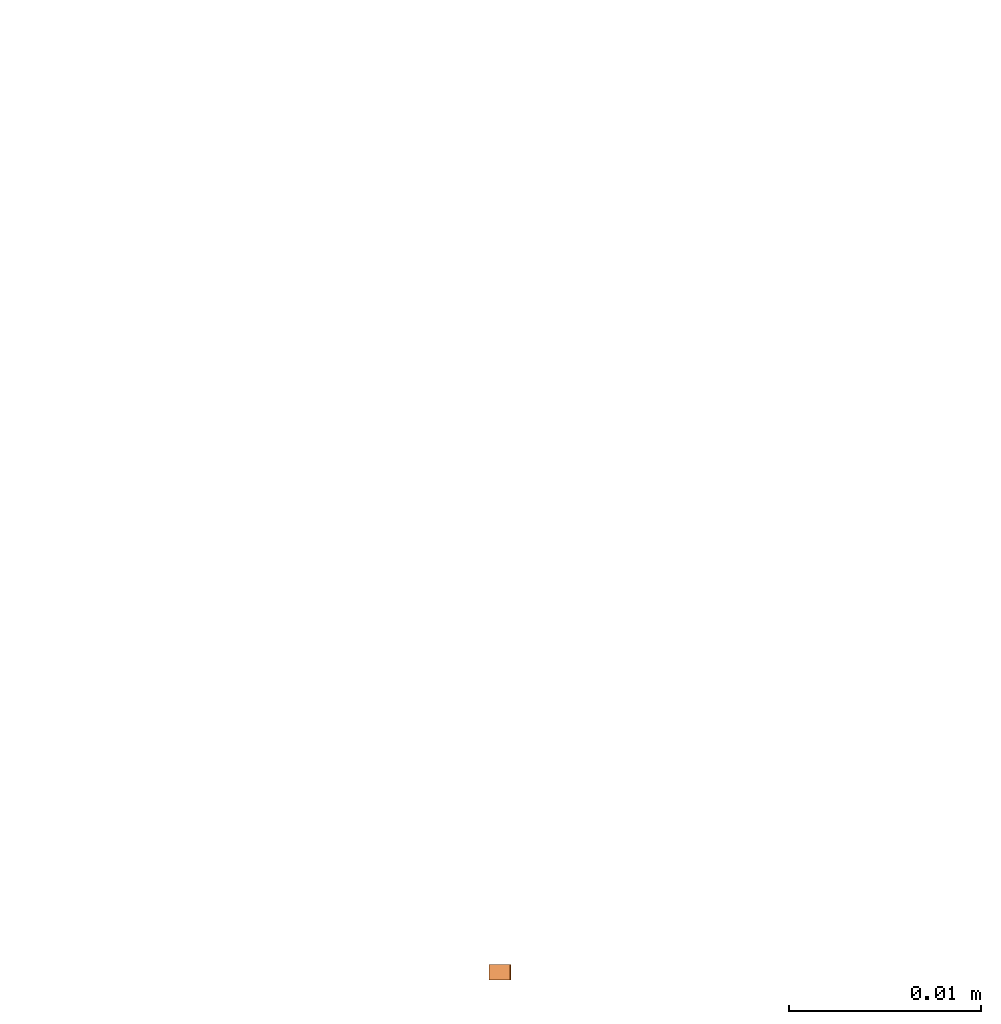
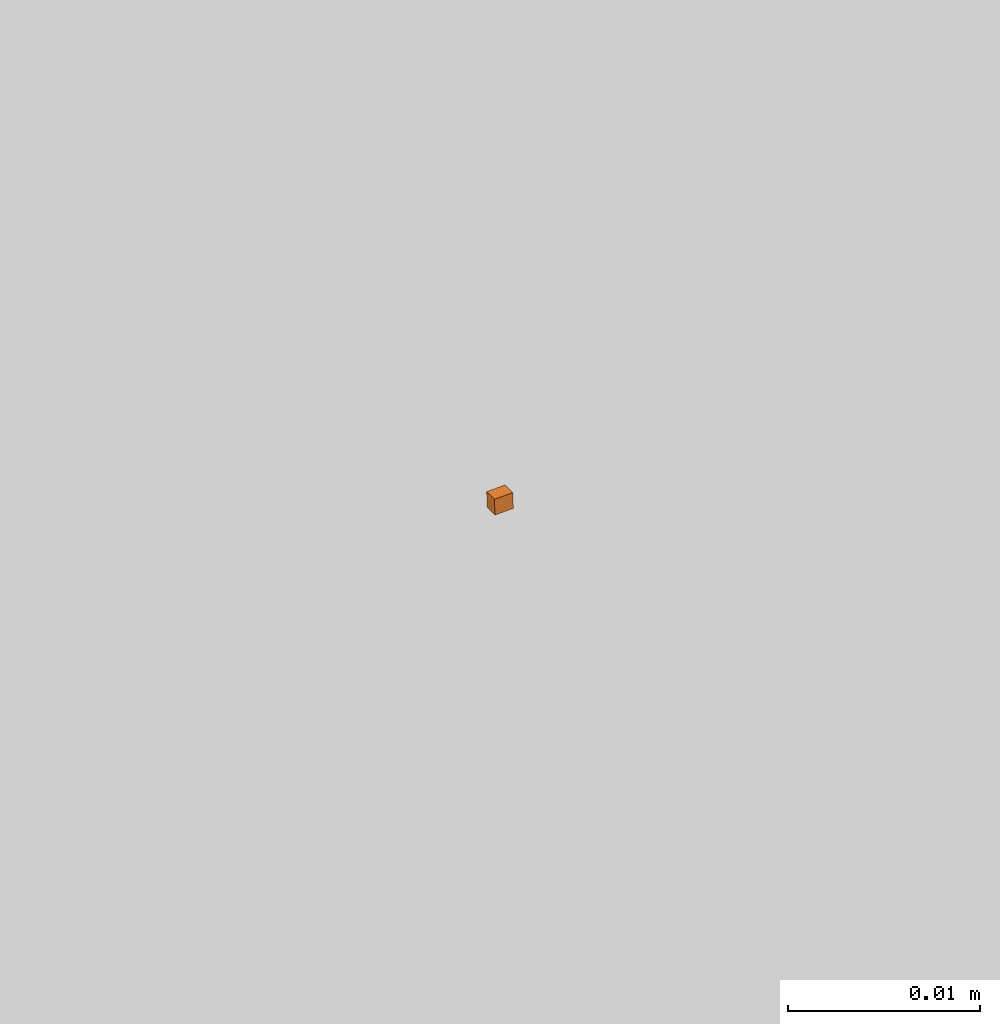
# One storey, part 2 of 2: 1 proxy.
"""IFC2X3 building model written with IfcOpenShell, lengths in feet."""

from ifc_helpers import new_model, entity, si_unit, converted_unit, derived_unit, direction, frame, origin, origin_2d_with_axis, place, context, subcontext, project, spatial, rectangle, extrude, source, transform, mapped, type_object, type_shapes, element, save


model = new_model("IFC2X3")

# Units and contexts
model_context = context("Model", 3, precision=0.0001, world=origin(), true_north=direction((6.12303176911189e-17, 1.0)))
body_context = subcontext(model_context, "Body", "Model", "MODEL_VIEW")
ifc_project = project(units=[converted_unit("LENGTHUNIT", "FOOT", entity("IfcRatioMeasure", 0.3048), si_unit("LENGTHUNIT", "METRE"), dimensions=[1, 0, 0, 0, 0, 0, 0]), converted_unit("AREAUNIT", "SQUARE FOOT", entity("IfcRatioMeasure", 0.09290304), si_unit("AREAUNIT", "SQUARE_METRE"), dimensions=[2, 0, 0, 0, 0, 0, 0]), converted_unit("VOLUMEUNIT", "CUBIC FOOT", entity("IfcRatioMeasure", 0.028316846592), si_unit("VOLUMEUNIT", "CUBIC_METRE"), dimensions=[3, 0, 0, 0, 0, 0, 0]), converted_unit("PLANEANGLEUNIT", "DEGREE", entity("IfcRatioMeasure", 0.0174532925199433), si_unit("PLANEANGLEUNIT", "RADIAN"), dimensions=[0, 0, 0, 0, 0, 0, 0]), si_unit("MASSUNIT", "GRAM", prefix="KILO"), derived_unit("MASSDENSITYUNIT", [(si_unit("MASSUNIT", "GRAM", prefix="KILO"), 1), (si_unit("LENGTHUNIT", "METRE"), -3)]), si_unit("TIMEUNIT", "SECOND"), si_unit("FREQUENCYUNIT", "HERTZ"), si_unit("THERMODYNAMICTEMPERATUREUNIT", "DEGREE_CELSIUS"), derived_unit("THERMALTRANSMITTANCEUNIT", [(si_unit("MASSUNIT", "GRAM", prefix="KILO"), 1), (si_unit("THERMODYNAMICTEMPERATUREUNIT", "KELVIN"), -1), (si_unit("TIMEUNIT", "SECOND"), -3)]), derived_unit("VOLUMETRICFLOWRATEUNIT", [(si_unit("LENGTHUNIT", "METRE"), 3), (si_unit("TIMEUNIT", "SECOND"), -1)]), si_unit("ELECTRICCURRENTUNIT", "AMPERE"), si_unit("ELECTRICVOLTAGEUNIT", "VOLT"), si_unit("POWERUNIT", "WATT"), si_unit("FORCEUNIT", "NEWTON"), si_unit("ILLUMINANCEUNIT", "LUX"), si_unit("LUMINOUSFLUXUNIT", "LUMEN"), si_unit("LUMINOUSINTENSITYUNIT", "CANDELA"), derived_unit("USERDEFINED", [(si_unit("MASSUNIT", "GRAM", prefix="KILO"), -1), (si_unit("LENGTHUNIT", "METRE"), -2), (si_unit("TIMEUNIT", "SECOND"), 3), (si_unit("LUMINOUSFLUXUNIT", "LUMEN"), 1)]), derived_unit("LINEARVELOCITYUNIT", [(si_unit("LENGTHUNIT", "METRE"), 1), (si_unit("TIMEUNIT", "SECOND"), -1)]), si_unit("PRESSUREUNIT", "PASCAL"), derived_unit("USERDEFINED", [(si_unit("LENGTHUNIT", "METRE"), -2), (si_unit("MASSUNIT", "GRAM", prefix="KILO"), 1), (si_unit("TIMEUNIT", "SECOND"), -2)])], contexts=[model_context])

# Site, building, storey
site_placement = place(None, origin())
site = spatial("IfcSite", under=ifc_project, at=site_placement, Name="Default", CompositionType="ELEMENT")
building_placement = place(site_placement, origin())
building = spatial("IfcBuilding", under=site, at=building_placement, CompositionType="ELEMENT")
storey_placement = place(building_placement, origin())
storey = spatial("IfcBuildingStorey", under=building, at=storey_placement, Name="Level 1", CompositionType="ELEMENT", Elevation=0.0)

# Proxy
building_element_proxy_type = type_object("IfcBuildingElementProxyType", Name="None", PredefinedType="NOTDEFINED")
shared_shape = source(origin(), body_context, "Body", "SweptSolid", [
    extrude(rectangle(XDim=0.00333251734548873, YDim=0.00361925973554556, at=origin_2d_with_axis()), frame((0.00166625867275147, -0.00180962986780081, -0.164041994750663), z_axis=(0.0, 0.0, 1.0), x_axis=(-1.0, 0.0, 0.0)), (0.0, 0.0, 1.0), 0.00266797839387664),
])
type_shapes(building_element_proxy_type, [shared_shape])
proxy_placement = place(storey_placement, frame((-2.02566484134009, 7.37768711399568, 1.80855845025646), z_axis=(0.0, -1.0, 0.0), x_axis=(-0.0386829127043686, 0.0, 0.999251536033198)))
element("IfcBuildingElementProxy", 1, at=proxy_placement, inside=storey, type_object=building_element_proxy_type, Name="None 3:None", ObjectType="None 3:None", context=body_context, shape_type="MappedRepresentation", body=[
    mapped(shared_shape, transform((0.0, 0.0, 0.0), scale=1.0)),
])

save(model, "model.ifc")
